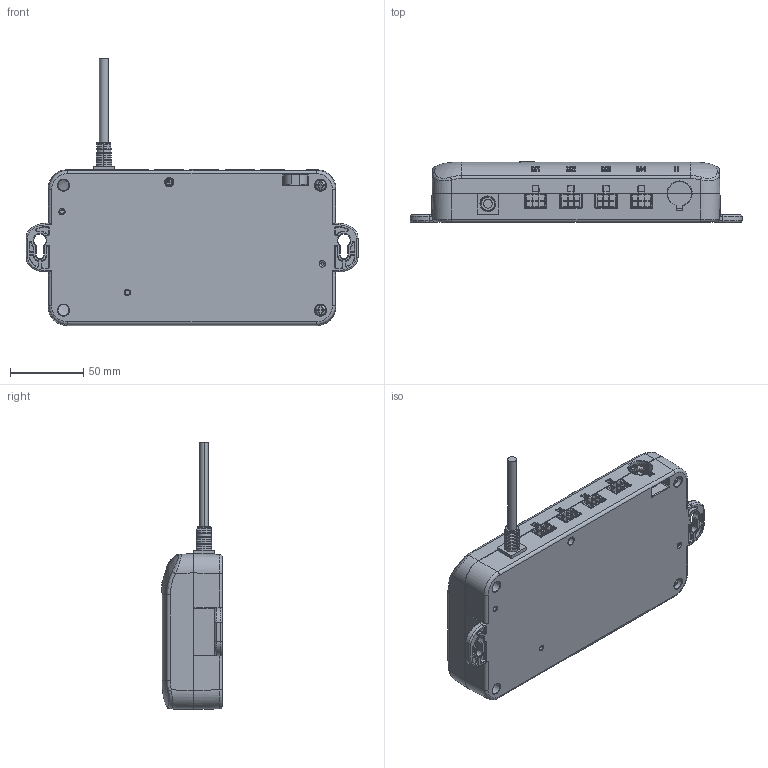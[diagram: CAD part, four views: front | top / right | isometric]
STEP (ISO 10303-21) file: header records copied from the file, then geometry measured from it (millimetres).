
FILE_DESCRIPTION (( 'STEP AP203' ), '1' );
FILE_NAME ('cf19-0215-asm.STEP', '2024-09-24T05:33:09', ( '' ), ( '' ), 'SwSTEP 2.0', 'SolidWorks 2023', '' );
FILE_SCHEMA (( 'CONFIG_CONTROL_DESIGN' ));
Length unit declared in the file: millimetre
Products named in the file (1): cf19-0215-asm
Bounding box: 226 x 41.3 x 181.8 mm (x, y, z)
Surface area: 98334 mm2 (no closed solid volume)
Topology: 0 solids, 16 shells, 917 faces, 2952 edges, 2050 vertices
Faces by surface type: plane 478, cylinder 175, bspline 155, torus 64, cone 45
Entity records: 41831 total; most frequent: CARTESIAN_POINT 17133, ORIENTED_EDGE 4940, DIRECTION 4710, EDGE_CURVE 2952, VERTEX_POINT 2050, VECTOR 1684, LINE 1684, AXIS2_PLACEMENT_3D 1513
